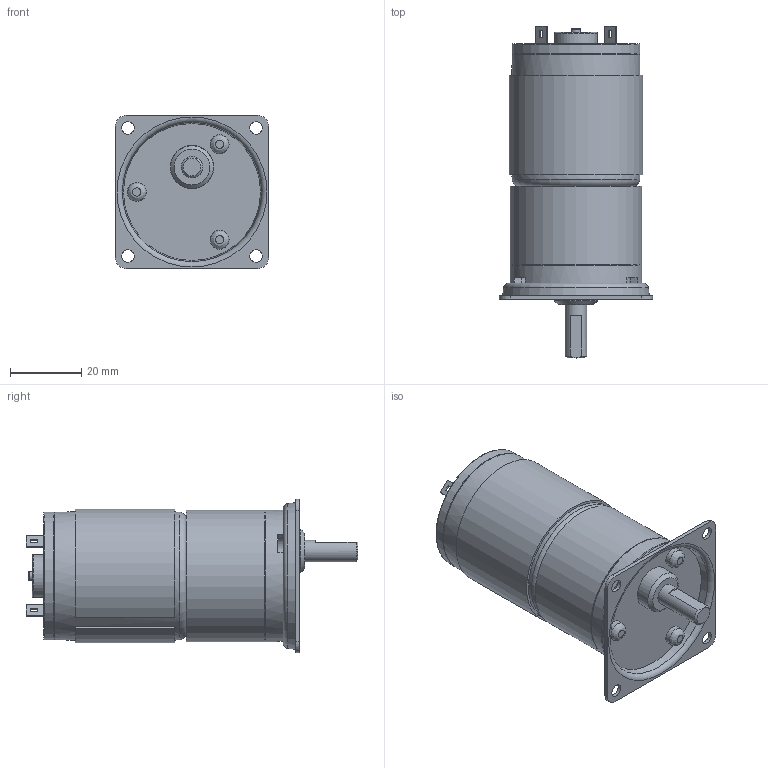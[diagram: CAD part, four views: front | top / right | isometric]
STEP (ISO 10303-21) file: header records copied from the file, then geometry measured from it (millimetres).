
FILE_DESCRIPTION((''),'2;1');
FILE_NAME('C:\Documents and Settings\SSEGAWA\デスクトップ\TP-3640B-PKS-4.STP','2013-07-18T17:10:43',('SSEGAWA'),(''),'Autodesk Inventor 2010','Autodesk Inventor 2010','');
FILE_SCHEMA(('CONFIG_CONTROL_DESIGN'));
Length unit declared in the file: millimetre
Products named in the file (1): tp_3640bce_pks_4_Shrinkwrap_1
Bounding box: 43 x 93.2 x 43 mm (x, y, z)
Volume: 75545.4 mm3; surface area: 15250.4 mm2
Topology: 10 solids, 10 shells, 136 faces, 302 edges, 200 vertices
Faces by surface type: plane 73, bspline 27, cylinder 26, cone 5, torus 5
Full cylindrical faces by diameter (mm): 2.5 x1, 4 x1, 4.5 x1, 5.3 x3, 6 x1, 12 x2, 12.2 x1, 35.6 x1, 36 x2, 36.6 x1, 37 x2
Entity records: 3883 total; most frequent: CARTESIAN_POINT 1024, DIRECTION 543, ORIENTED_EDGE 452, EDGE_CURVE 226, EDGE_LOOP 211, AXIS2_PLACEMENT_3D 209, VERTEX_POINT 173, STYLED_ITEM 146
